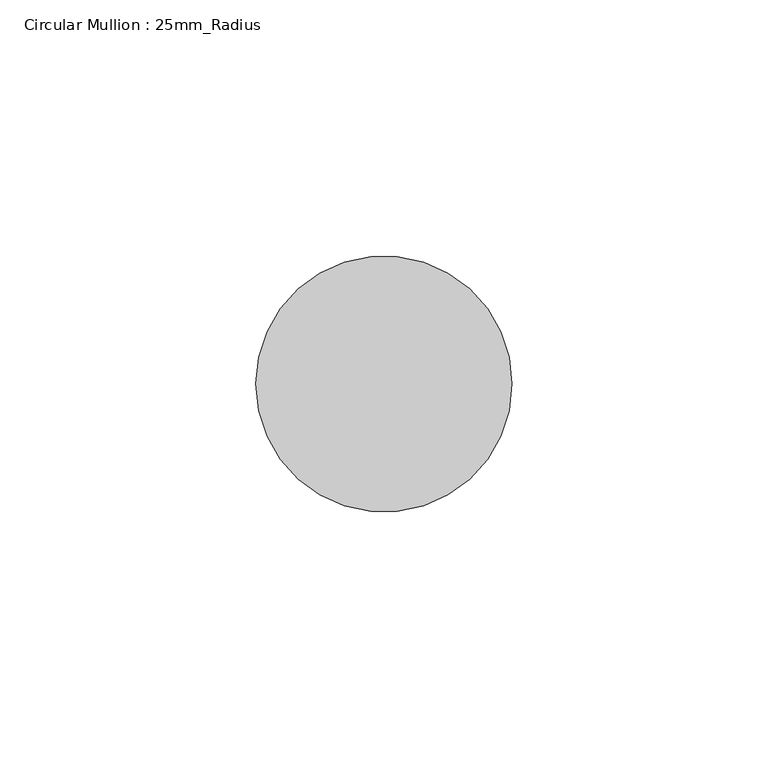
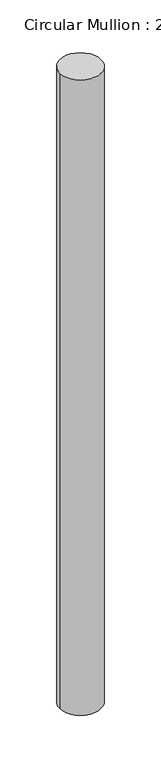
"""IFC4 building model written with IfcOpenShell, lengths in millimetres: member geometry, Circular Mullion : 25mm_Radius."""

from ifc_helpers import new_model, si_unit, point, frame, frame_2d, origin, place, context, project, spatial, circle_curve, trimmed, segment, composite_curve, outline, extrude, source, transform, mapped, element, save


def circular_mullion_25mm_radius_a4cd8f1d(model_context):
    return source(origin(), model_context, "Body", "SweptSolid", [
        extrude(outline(composite_curve([segment(trimmed(circle_curve(frame_2d((-25.0, 0.0)), 25.0), [point((0.0, 0.0))], [point((-50.0, 0.0))], False, "CARTESIAN"), True, "CONTINUOUS"), segment(trimmed(circle_curve(frame_2d((-25.0, 0.0)), 25.0), [point((-50.0, 0.0))], [point((0.0, 0.0))], False, "CARTESIAN"), True, "CONTINUOUS")], self_intersect=False)), frame((0.0, 0.0, -812.4994084), z_axis=(0.0, 0.0, 1.0), x_axis=(1.0, 0.0, 0.0)), (0.0, 0.0, 1.0), 812.4994084),
    ])


if __name__ == "__main__":
    model = new_model("IFC4")
    model_context = context("Model", 3, world=origin())
    ifc_project = project(units=[si_unit("LENGTHUNIT", "METRE", prefix="MILLI")], contexts=[model_context])
    site = spatial("IfcSite", under=ifc_project)
    building = spatial("IfcBuilding", under=site)
    placement = place(None, origin())
    circular_mullion_25mm_radius_shape = circular_mullion_25mm_radius_a4cd8f1d(model_context)
    element("IfcMember", 1, ObjectType="Circular Mullion : 25mm_Radius", at=placement, inside=building, context=model_context, shape_type="MappedRepresentation", body=[
        mapped(circular_mullion_25mm_radius_shape, transform((0.0, 0.0, 0.0), x_axis=(1.0, 0.0, 0.0), y_axis=(0.0, 1.0, 0.0), z_axis=(0.0, 0.0, 1.0))),
    ])
    save(model, "model.ifc")
